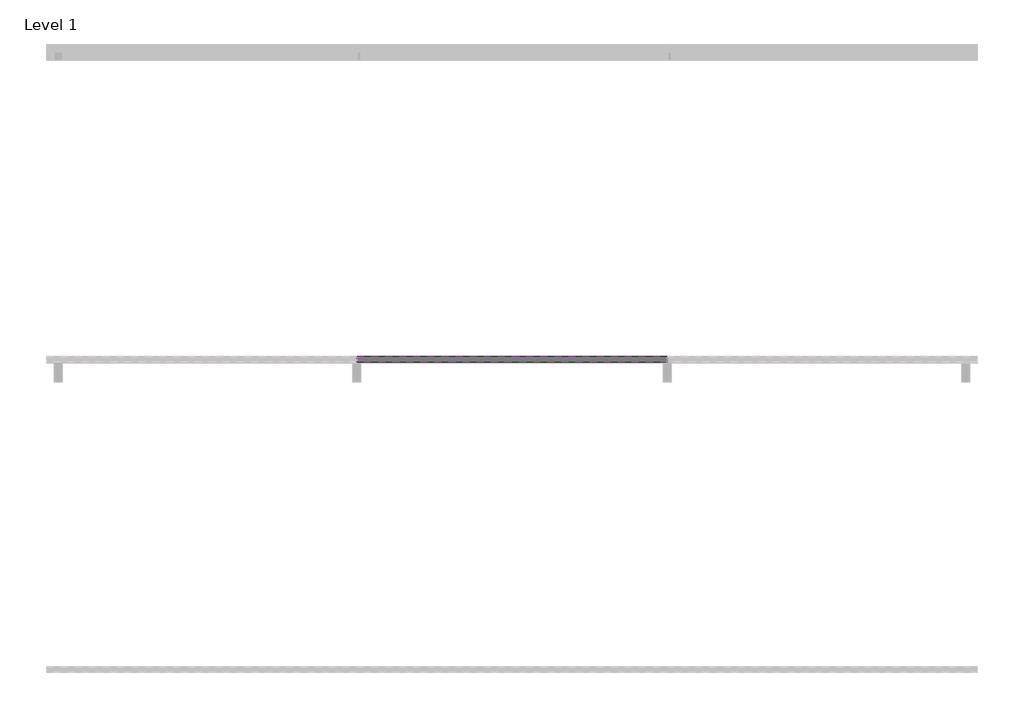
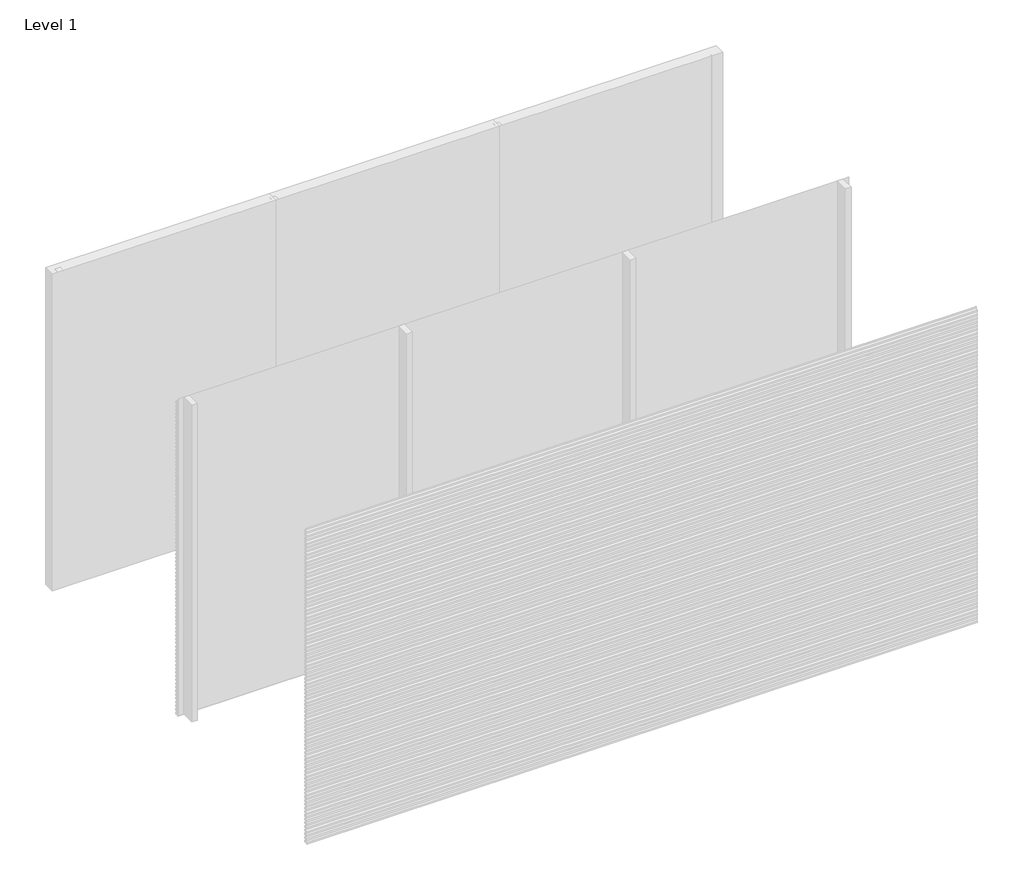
# One storey, part 4 of 17: 80 proxies.
"""IFC4 building model written with IfcOpenShell, lengths in millimetres."""

from ifc_helpers import new_model, si_unit, frame, origin, place, context, project, spatial, polyline, outline, extrude, element, save

model = new_model("IFC4")

# Units and contexts
model_context = context("Model", 3, world=origin())
ifc_project = project(units=[si_unit("LENGTHUNIT", "METRE", prefix="MILLI")], contexts=[model_context])

# Site, building, storey
site = spatial("IfcSite", under=ifc_project)
building = spatial("IfcBuilding", under=site)
storey = spatial("IfcBuildingStorey", under=building, Name="Level 1", Elevation=0.0)

# Proxies
placement = place(None, origin())
element("IfcBuildingElementProxy", 1, Name="Wall Sweeps", at=placement, inside=storey, context=model_context, shape_type="SweptSolid", body=[
    extrude(outline(polyline([(-17961.0, 2951.5), (-17961.0, 2936.5), (-17979.0, 2948.6411533), (-17997.0, 2936.5), (-17997.0, 2951.5), (-17980.0, 2962.9666448), (-17980.0, 2975.0), (-17978.0, 2975.0), (-17978.0, 2962.9666448), (-17961.0, 2951.5)])), frame((3999.9999999, 0.0, 0.0), z_axis=(1.0, 0.0, 0.0), x_axis=(0.0, 1.0, 0.0)), (0.0, 0.0, 1.0), 2000.0000001),
])
element("IfcBuildingElementProxy", 2, Name="Wall Sweeps", at=placement, inside=storey, context=model_context, shape_type="SweptSolid", body=[
    extrude(outline(polyline([(-17961.0, 2916.5), (-17961.0, 2901.5), (-17979.0, 2913.6411533), (-17997.0, 2901.5), (-17997.0, 2916.5), (-17980.0, 2927.9666448), (-17980.0, 2940.0), (-17978.0, 2940.0), (-17978.0, 2927.9666448), (-17961.0, 2916.5)])), frame((3999.9999999, 0.0, 0.0), z_axis=(1.0, 0.0, 0.0), x_axis=(0.0, 1.0, 0.0)), (0.0, 0.0, 1.0), 2000.0000001),
])
element("IfcBuildingElementProxy", 3, Name="Wall Sweeps", at=placement, inside=storey, context=model_context, shape_type="SweptSolid", body=[
    extrude(outline(polyline([(-17961.0, 2881.5), (-17961.0, 2866.5), (-17979.0, 2878.6411533), (-17997.0, 2866.5), (-17997.0, 2881.5), (-17980.0, 2892.9666448), (-17980.0, 2905.0), (-17978.0, 2905.0), (-17978.0, 2892.9666448), (-17961.0, 2881.5)])), frame((3999.9999999, 0.0, 0.0), z_axis=(1.0, 0.0, 0.0), x_axis=(0.0, 1.0, 0.0)), (0.0, 0.0, 1.0), 2000.0000001),
])
element("IfcBuildingElementProxy", 4, Name="Wall Sweeps", at=placement, inside=storey, context=model_context, shape_type="SweptSolid", body=[
    extrude(outline(polyline([(-17961.0, 2846.5), (-17961.0, 2831.5), (-17979.0, 2843.6411533), (-17997.0, 2831.5), (-17997.0, 2846.5), (-17980.0, 2857.9666448), (-17980.0, 2870.0), (-17978.0, 2870.0), (-17978.0, 2857.9666448), (-17961.0, 2846.5)])), frame((3999.9999999, 0.0, 0.0), z_axis=(1.0, 0.0, 0.0), x_axis=(0.0, 1.0, 0.0)), (0.0, 0.0, 1.0), 2000.0000001),
])
element("IfcBuildingElementProxy", 5, Name="Wall Sweeps", at=placement, inside=storey, context=model_context, shape_type="SweptSolid", body=[
    extrude(outline(polyline([(-17961.0, 2811.5), (-17961.0, 2796.5), (-17979.0, 2808.6411533), (-17997.0, 2796.5), (-17997.0, 2811.5), (-17980.0, 2822.9666448), (-17980.0, 2835.0), (-17978.0, 2835.0), (-17978.0, 2822.9666448), (-17961.0, 2811.5)])), frame((3999.9999999, 0.0, 0.0), z_axis=(1.0, 0.0, 0.0), x_axis=(0.0, 1.0, 0.0)), (0.0, 0.0, 1.0), 2000.0000001),
])
element("IfcBuildingElementProxy", 6, Name="Wall Sweeps", at=placement, inside=storey, context=model_context, shape_type="SweptSolid", body=[
    extrude(outline(polyline([(-17961.0, 2776.5), (-17961.0, 2761.5), (-17979.0, 2773.6411533), (-17997.0, 2761.5), (-17997.0, 2776.5), (-17980.0, 2787.9666448), (-17980.0, 2800.0), (-17978.0, 2800.0), (-17978.0, 2787.9666448), (-17961.0, 2776.5)])), frame((3999.9999999, 0.0, 0.0), z_axis=(1.0, 0.0, 0.0), x_axis=(0.0, 1.0, 0.0)), (0.0, 0.0, 1.0), 2000.0000001),
])
element("IfcBuildingElementProxy", 7, Name="Wall Sweeps", at=placement, inside=storey, context=model_context, shape_type="SweptSolid", body=[
    extrude(outline(polyline([(-17961.0, 2741.5), (-17961.0, 2726.5), (-17979.0, 2738.6411533), (-17997.0, 2726.5), (-17997.0, 2741.5), (-17980.0, 2752.9666448), (-17980.0, 2765.0), (-17978.0, 2765.0), (-17978.0, 2752.9666448), (-17961.0, 2741.5)])), frame((3999.9999999, 0.0, 0.0), z_axis=(1.0, 0.0, 0.0), x_axis=(0.0, 1.0, 0.0)), (0.0, 0.0, 1.0), 2000.0000001),
])
element("IfcBuildingElementProxy", 8, Name="Wall Sweeps", at=placement, inside=storey, context=model_context, shape_type="SweptSolid", body=[
    extrude(outline(polyline([(-17961.0, 2706.5), (-17961.0, 2691.5), (-17979.0, 2703.6411533), (-17997.0, 2691.5), (-17997.0, 2706.5), (-17980.0, 2717.9666448), (-17980.0, 2730.0), (-17978.0, 2730.0), (-17978.0, 2717.9666448), (-17961.0, 2706.5)])), frame((3999.9999999, 0.0, 0.0), z_axis=(1.0, 0.0, 0.0), x_axis=(0.0, 1.0, 0.0)), (0.0, 0.0, 1.0), 2000.0000001),
])
element("IfcBuildingElementProxy", 9, Name="Wall Sweeps", at=placement, inside=storey, context=model_context, shape_type="SweptSolid", body=[
    extrude(outline(polyline([(-17961.0, 2671.5), (-17961.0, 2656.5), (-17979.0, 2668.6411533), (-17997.0, 2656.5), (-17997.0, 2671.5), (-17980.0, 2682.9666448), (-17980.0, 2695.0), (-17978.0, 2695.0), (-17978.0, 2682.9666448), (-17961.0, 2671.5)])), frame((3999.9999999, 0.0, 0.0), z_axis=(1.0, 0.0, 0.0), x_axis=(0.0, 1.0, 0.0)), (0.0, 0.0, 1.0), 2000.0000001),
])
element("IfcBuildingElementProxy", 10, Name="Wall Sweeps", at=placement, inside=storey, context=model_context, shape_type="SweptSolid", body=[
    extrude(outline(polyline([(-17961.0, 2636.5), (-17961.0, 2621.5), (-17979.0, 2633.6411533), (-17997.0, 2621.5), (-17997.0, 2636.5), (-17980.0, 2647.9666448), (-17980.0, 2660.0), (-17978.0, 2660.0), (-17978.0, 2647.9666448), (-17961.0, 2636.5)])), frame((3999.9999999, 0.0, 0.0), z_axis=(1.0, 0.0, 0.0), x_axis=(0.0, 1.0, 0.0)), (0.0, 0.0, 1.0), 2000.0000001),
])
element("IfcBuildingElementProxy", 11, Name="Wall Sweeps", at=placement, inside=storey, context=model_context, shape_type="SweptSolid", body=[
    extrude(outline(polyline([(-17961.0, 2601.5), (-17961.0, 2586.5), (-17979.0, 2598.6411533), (-17997.0, 2586.5), (-17997.0, 2601.5), (-17980.0, 2612.9666448), (-17980.0, 2625.0), (-17978.0, 2625.0), (-17978.0, 2612.9666448), (-17961.0, 2601.5)])), frame((3999.9999999, 0.0, 0.0), z_axis=(1.0, 0.0, 0.0), x_axis=(0.0, 1.0, 0.0)), (0.0, 0.0, 1.0), 2000.0000001),
])
element("IfcBuildingElementProxy", 12, Name="Wall Sweeps", at=placement, inside=storey, context=model_context, shape_type="SweptSolid", body=[
    extrude(outline(polyline([(-17961.0, 2566.5), (-17961.0, 2551.5), (-17979.0, 2563.6411533), (-17997.0, 2551.5), (-17997.0, 2566.5), (-17980.0, 2577.9666448), (-17980.0, 2590.0), (-17978.0, 2590.0), (-17978.0, 2577.9666448), (-17961.0, 2566.5)])), frame((3999.9999999, 0.0, 0.0), z_axis=(1.0, 0.0, 0.0), x_axis=(0.0, 1.0, 0.0)), (0.0, 0.0, 1.0), 2000.0000001),
])
element("IfcBuildingElementProxy", 13, Name="Wall Sweeps", at=placement, inside=storey, context=model_context, shape_type="SweptSolid", body=[
    extrude(outline(polyline([(-17961.0, 2531.5), (-17961.0, 2516.5), (-17979.0, 2528.6411533), (-17997.0, 2516.5), (-17997.0, 2531.5), (-17980.0, 2542.9666448), (-17980.0, 2555.0), (-17978.0, 2555.0), (-17978.0, 2542.9666448), (-17961.0, 2531.5)])), frame((3999.9999999, 0.0, 0.0), z_axis=(1.0, 0.0, 0.0), x_axis=(0.0, 1.0, 0.0)), (0.0, 0.0, 1.0), 2000.0000001),
])
element("IfcBuildingElementProxy", 14, Name="Wall Sweeps", at=placement, inside=storey, context=model_context, shape_type="SweptSolid", body=[
    extrude(outline(polyline([(-17961.0, 2496.5), (-17961.0, 2481.5), (-17979.0, 2493.6411533), (-17997.0, 2481.5), (-17997.0, 2496.5), (-17980.0, 2507.9666448), (-17980.0, 2520.0), (-17978.0, 2520.0), (-17978.0, 2507.9666448), (-17961.0, 2496.5)])), frame((3999.9999999, 0.0, 0.0), z_axis=(1.0, 0.0, 0.0), x_axis=(0.0, 1.0, 0.0)), (0.0, 0.0, 1.0), 2000.0000001),
])
element("IfcBuildingElementProxy", 15, Name="Wall Sweeps", at=placement, inside=storey, context=model_context, shape_type="SweptSolid", body=[
    extrude(outline(polyline([(-17961.0, 2461.5), (-17961.0, 2446.5), (-17979.0, 2458.6411533), (-17997.0, 2446.5), (-17997.0, 2461.5), (-17980.0, 2472.9666448), (-17980.0, 2485.0), (-17978.0, 2485.0), (-17978.0, 2472.9666448), (-17961.0, 2461.5)])), frame((3999.9999999, 0.0, 0.0), z_axis=(1.0, 0.0, 0.0), x_axis=(0.0, 1.0, 0.0)), (0.0, 0.0, 1.0), 2000.0000001),
])
element("IfcBuildingElementProxy", 16, Name="Wall Sweeps", at=placement, inside=storey, context=model_context, shape_type="SweptSolid", body=[
    extrude(outline(polyline([(-17961.0, 2426.5), (-17961.0, 2411.5), (-17979.0, 2423.6411533), (-17997.0, 2411.5), (-17997.0, 2426.5), (-17980.0, 2437.9666448), (-17980.0, 2450.0), (-17978.0, 2450.0), (-17978.0, 2437.9666448), (-17961.0, 2426.5)])), frame((3999.9999999, 0.0, 0.0), z_axis=(1.0, 0.0, 0.0), x_axis=(0.0, 1.0, 0.0)), (0.0, 0.0, 1.0), 2000.0000001),
])
element("IfcBuildingElementProxy", 17, Name="Wall Sweeps", at=placement, inside=storey, context=model_context, shape_type="SweptSolid", body=[
    extrude(outline(polyline([(-17961.0, 2391.5), (-17961.0, 2376.5), (-17979.0, 2388.6411533), (-17997.0, 2376.5), (-17997.0, 2391.5), (-17980.0, 2402.9666448), (-17980.0, 2415.0), (-17978.0, 2415.0), (-17978.0, 2402.9666448), (-17961.0, 2391.5)])), frame((3999.9999999, 0.0, 0.0), z_axis=(1.0, 0.0, 0.0), x_axis=(0.0, 1.0, 0.0)), (0.0, 0.0, 1.0), 2000.0000001),
])
element("IfcBuildingElementProxy", 18, Name="Wall Sweeps", at=placement, inside=storey, context=model_context, shape_type="SweptSolid", body=[
    extrude(outline(polyline([(-17961.0, 2356.5), (-17961.0, 2341.5), (-17979.0, 2353.6411533), (-17997.0, 2341.5), (-17997.0, 2356.5), (-17980.0, 2367.9666448), (-17980.0, 2380.0), (-17978.0, 2380.0), (-17978.0, 2367.9666448), (-17961.0, 2356.5)])), frame((3999.9999999, 0.0, 0.0), z_axis=(1.0, 0.0, 0.0), x_axis=(0.0, 1.0, 0.0)), (0.0, 0.0, 1.0), 2000.0000001),
])
element("IfcBuildingElementProxy", 19, Name="Wall Sweeps", at=placement, inside=storey, context=model_context, shape_type="SweptSolid", body=[
    extrude(outline(polyline([(-17961.0, 2321.5), (-17961.0, 2306.5), (-17979.0, 2318.6411533), (-17997.0, 2306.5), (-17997.0, 2321.5), (-17980.0, 2332.9666448), (-17980.0, 2345.0), (-17978.0, 2345.0), (-17978.0, 2332.9666448), (-17961.0, 2321.5)])), frame((3999.9999999, 0.0, 0.0), z_axis=(1.0, 0.0, 0.0), x_axis=(0.0, 1.0, 0.0)), (0.0, 0.0, 1.0), 2000.0000001),
])
element("IfcBuildingElementProxy", 20, Name="Wall Sweeps", at=placement, inside=storey, context=model_context, shape_type="SweptSolid", body=[
    extrude(outline(polyline([(-17961.0, 2286.5), (-17961.0, 2271.5), (-17979.0, 2283.6411533), (-17997.0, 2271.5), (-17997.0, 2286.5), (-17980.0, 2297.9666448), (-17980.0, 2310.0), (-17978.0, 2310.0), (-17978.0, 2297.9666448), (-17961.0, 2286.5)])), frame((3999.9999999, 0.0, 0.0), z_axis=(1.0, 0.0, 0.0), x_axis=(0.0, 1.0, 0.0)), (0.0, 0.0, 1.0), 2000.0000001),
])
element("IfcBuildingElementProxy", 21, Name="Wall Sweeps", at=placement, inside=storey, context=model_context, shape_type="SweptSolid", body=[
    extrude(outline(polyline([(-17961.0, 2251.5), (-17961.0, 2236.5), (-17979.0, 2248.6411533), (-17997.0, 2236.5), (-17997.0, 2251.5), (-17980.0, 2262.9666448), (-17980.0, 2275.0), (-17978.0, 2275.0), (-17978.0, 2262.9666448), (-17961.0, 2251.5)])), frame((3999.9999999, 0.0, 0.0), z_axis=(1.0, 0.0, 0.0), x_axis=(0.0, 1.0, 0.0)), (0.0, 0.0, 1.0), 2000.0000001),
])
element("IfcBuildingElementProxy", 22, Name="Wall Sweeps", at=placement, inside=storey, context=model_context, shape_type="SweptSolid", body=[
    extrude(outline(polyline([(-17961.0, 2216.5), (-17961.0, 2201.5), (-17979.0, 2213.6411533), (-17997.0, 2201.5), (-17997.0, 2216.5), (-17980.0, 2227.9666448), (-17980.0, 2240.0), (-17978.0, 2240.0), (-17978.0, 2227.9666448), (-17961.0, 2216.5)])), frame((3999.9999999, 0.0, 0.0), z_axis=(1.0, 0.0, 0.0), x_axis=(0.0, 1.0, 0.0)), (0.0, 0.0, 1.0), 2000.0000001),
])
element("IfcBuildingElementProxy", 23, Name="Wall Sweeps", at=placement, inside=storey, context=model_context, shape_type="SweptSolid", body=[
    extrude(outline(polyline([(-17961.0, 2181.5), (-17961.0, 2166.5), (-17979.0, 2178.6411533), (-17997.0, 2166.5), (-17997.0, 2181.5), (-17980.0, 2192.9666448), (-17980.0, 2205.0), (-17978.0, 2205.0), (-17978.0, 2192.9666448), (-17961.0, 2181.5)])), frame((3999.9999999, 0.0, 0.0), z_axis=(1.0, 0.0, 0.0), x_axis=(0.0, 1.0, 0.0)), (0.0, 0.0, 1.0), 2000.0000001),
])
element("IfcBuildingElementProxy", 24, Name="Wall Sweeps", at=placement, inside=storey, context=model_context, shape_type="SweptSolid", body=[
    extrude(outline(polyline([(-17961.0, 2146.5), (-17961.0, 2131.5), (-17979.0, 2143.6411533), (-17997.0, 2131.5), (-17997.0, 2146.5), (-17980.0, 2157.9666448), (-17980.0, 2170.0), (-17978.0, 2170.0), (-17978.0, 2157.9666448), (-17961.0, 2146.5)])), frame((3999.9999999, 0.0, 0.0), z_axis=(1.0, 0.0, 0.0), x_axis=(0.0, 1.0, 0.0)), (0.0, 0.0, 1.0), 2000.0000001),
])
element("IfcBuildingElementProxy", 25, Name="Wall Sweeps", at=placement, inside=storey, context=model_context, shape_type="SweptSolid", body=[
    extrude(outline(polyline([(-17961.0, 2111.5), (-17961.0, 2096.5), (-17979.0, 2108.6411533), (-17997.0, 2096.5), (-17997.0, 2111.5), (-17980.0, 2122.9666448), (-17980.0, 2135.0), (-17978.0, 2135.0), (-17978.0, 2122.9666448), (-17961.0, 2111.5)])), frame((3999.9999999, 0.0, 0.0), z_axis=(1.0, 0.0, 0.0), x_axis=(0.0, 1.0, 0.0)), (0.0, 0.0, 1.0), 2000.0000001),
])
element("IfcBuildingElementProxy", 26, Name="Wall Sweeps", at=placement, inside=storey, context=model_context, shape_type="SweptSolid", body=[
    extrude(outline(polyline([(-17961.0, 2076.5), (-17961.0, 2061.5), (-17979.0, 2073.6411533), (-17997.0, 2061.5), (-17997.0, 2076.5), (-17980.0, 2087.9666448), (-17980.0, 2100.0), (-17978.0, 2100.0), (-17978.0, 2087.9666448), (-17961.0, 2076.5)])), frame((3999.9999999, 0.0, 0.0), z_axis=(1.0, 0.0, 0.0), x_axis=(0.0, 1.0, 0.0)), (0.0, 0.0, 1.0), 2000.0000001),
])
element("IfcBuildingElementProxy", 27, Name="Wall Sweeps", at=placement, inside=storey, context=model_context, shape_type="SweptSolid", body=[
    extrude(outline(polyline([(-17961.0, 2041.5), (-17961.0, 2026.5), (-17979.0, 2038.6411533), (-17997.0, 2026.5), (-17997.0, 2041.5), (-17980.0, 2052.9666448), (-17980.0, 2065.0), (-17978.0, 2065.0), (-17978.0, 2052.9666448), (-17961.0, 2041.5)])), frame((3999.9999999, 0.0, 0.0), z_axis=(1.0, 0.0, 0.0), x_axis=(0.0, 1.0, 0.0)), (0.0, 0.0, 1.0), 2000.0000001),
])
element("IfcBuildingElementProxy", 28, Name="Wall Sweeps", at=placement, inside=storey, context=model_context, shape_type="SweptSolid", body=[
    extrude(outline(polyline([(-17961.0, 2006.5), (-17961.0, 1991.5), (-17979.0, 2003.6411533), (-17997.0, 1991.5), (-17997.0, 2006.5), (-17980.0, 2017.9666448), (-17980.0, 2030.0), (-17978.0, 2030.0), (-17978.0, 2017.9666448), (-17961.0, 2006.5)])), frame((3999.9999999, 0.0, 0.0), z_axis=(1.0, 0.0, 0.0), x_axis=(0.0, 1.0, 0.0)), (0.0, 0.0, 1.0), 2000.0000001),
])
element("IfcBuildingElementProxy", 29, Name="Wall Sweeps", at=placement, inside=storey, context=model_context, shape_type="SweptSolid", body=[
    extrude(outline(polyline([(-17961.0, 1971.5), (-17961.0, 1956.5), (-17979.0, 1968.6411533), (-17997.0, 1956.5), (-17997.0, 1971.5), (-17980.0, 1982.9666448), (-17980.0, 1995.0), (-17978.0, 1995.0), (-17978.0, 1982.9666448), (-17961.0, 1971.5)])), frame((3999.9999999, 0.0, 0.0), z_axis=(1.0, 0.0, 0.0), x_axis=(0.0, 1.0, 0.0)), (0.0, 0.0, 1.0), 2000.0000001),
])
element("IfcBuildingElementProxy", 30, Name="Wall Sweeps", at=placement, inside=storey, context=model_context, shape_type="SweptSolid", body=[
    extrude(outline(polyline([(-17961.0, 1761.5), (-17961.0, 1746.5), (-17979.0, 1758.6411533), (-17997.0, 1746.5), (-17997.0, 1761.5), (-17980.0, 1772.9666448), (-17980.0, 1785.0), (-17978.0, 1785.0), (-17978.0, 1772.9666448), (-17961.0, 1761.5)])), frame((2000.0000001, 0.0, 0.0), z_axis=(1.0, 0.0, 0.0), x_axis=(0.0, 1.0, 0.0)), (0.0, 0.0, 1.0), 1999.9999998),
])
element("IfcBuildingElementProxy", 31, Name="Wall Sweeps", at=placement, inside=storey, context=model_context, shape_type="SweptSolid", body=[
    extrude(outline(polyline([(-17961.0, 1726.5), (-17961.0, 1711.5), (-17979.0, 1723.6411533), (-17997.0, 1711.5), (-17997.0, 1726.5), (-17980.0, 1737.9666448), (-17980.0, 1750.0), (-17978.0, 1750.0), (-17978.0, 1737.9666448), (-17961.0, 1726.5)])), frame((2000.0000001, 0.0, 0.0), z_axis=(1.0, 0.0, 0.0), x_axis=(0.0, 1.0, 0.0)), (0.0, 0.0, 1.0), 1999.9999998),
])
element("IfcBuildingElementProxy", 32, Name="Wall Sweeps", at=placement, inside=storey, context=model_context, shape_type="SweptSolid", body=[
    extrude(outline(polyline([(-17961.0, 1691.5), (-17961.0, 1676.5), (-17979.0, 1688.6411533), (-17997.0, 1676.5), (-17997.0, 1691.5), (-17980.0, 1702.9666448), (-17980.0, 1715.0), (-17978.0, 1715.0), (-17978.0, 1702.9666448), (-17961.0, 1691.5)])), frame((2000.0000001, 0.0, 0.0), z_axis=(1.0, 0.0, 0.0), x_axis=(0.0, 1.0, 0.0)), (0.0, 0.0, 1.0), 1999.9999998),
])
element("IfcBuildingElementProxy", 33, Name="Wall Sweeps", at=placement, inside=storey, context=model_context, shape_type="SweptSolid", body=[
    extrude(outline(polyline([(-17961.0, 1656.5), (-17961.0, 1641.5), (-17979.0, 1653.6411533), (-17997.0, 1641.5), (-17997.0, 1656.5), (-17980.0, 1667.9666448), (-17980.0, 1680.0), (-17978.0, 1680.0), (-17978.0, 1667.9666448), (-17961.0, 1656.5)])), frame((2000.0000001, 0.0, 0.0), z_axis=(1.0, 0.0, 0.0), x_axis=(0.0, 1.0, 0.0)), (0.0, 0.0, 1.0), 1999.9999998),
])
element("IfcBuildingElementProxy", 34, Name="Wall Sweeps", at=placement, inside=storey, context=model_context, shape_type="SweptSolid", body=[
    extrude(outline(polyline([(-17961.0, 1621.5), (-17961.0, 1606.5), (-17979.0, 1618.6411533), (-17997.0, 1606.5), (-17997.0, 1621.5), (-17980.0, 1632.9666448), (-17980.0, 1645.0), (-17978.0, 1645.0), (-17978.0, 1632.9666448), (-17961.0, 1621.5)])), frame((2000.0000001, 0.0, 0.0), z_axis=(1.0, 0.0, 0.0), x_axis=(0.0, 1.0, 0.0)), (0.0, 0.0, 1.0), 1999.9999998),
])
element("IfcBuildingElementProxy", 35, Name="Wall Sweeps", at=placement, inside=storey, context=model_context, shape_type="SweptSolid", body=[
    extrude(outline(polyline([(-17961.0, 1586.5), (-17961.0, 1571.5), (-17979.0, 1583.6411533), (-17997.0, 1571.5), (-17997.0, 1586.5), (-17980.0, 1597.9666448), (-17980.0, 1610.0), (-17978.0, 1610.0), (-17978.0, 1597.9666448), (-17961.0, 1586.5)])), frame((2000.0000001, 0.0, 0.0), z_axis=(1.0, 0.0, 0.0), x_axis=(0.0, 1.0, 0.0)), (0.0, 0.0, 1.0), 1999.9999998),
])
element("IfcBuildingElementProxy", 36, Name="Wall Sweeps", at=placement, inside=storey, context=model_context, shape_type="SweptSolid", body=[
    extrude(outline(polyline([(-17961.0, 1551.5), (-17961.0, 1536.5), (-17979.0, 1548.6411533), (-17997.0, 1536.5), (-17997.0, 1551.5), (-17980.0, 1562.9666448), (-17980.0, 1575.0), (-17978.0, 1575.0), (-17978.0, 1562.9666448), (-17961.0, 1551.5)])), frame((2000.0000001, 0.0, 0.0), z_axis=(1.0, 0.0, 0.0), x_axis=(0.0, 1.0, 0.0)), (0.0, 0.0, 1.0), 1999.9999998),
])
element("IfcBuildingElementProxy", 37, Name="Wall Sweeps", at=placement, inside=storey, context=model_context, shape_type="SweptSolid", body=[
    extrude(outline(polyline([(-17961.0, 1516.5), (-17961.0, 1501.5), (-17979.0, 1513.6411533), (-17997.0, 1501.5), (-17997.0, 1516.5), (-17980.0, 1527.9666448), (-17980.0, 1540.0), (-17978.0, 1540.0), (-17978.0, 1527.9666448), (-17961.0, 1516.5)])), frame((2000.0000001, 0.0, 0.0), z_axis=(1.0, 0.0, 0.0), x_axis=(0.0, 1.0, 0.0)), (0.0, 0.0, 1.0), 1999.9999998),
])
element("IfcBuildingElementProxy", 38, Name="Wall Sweeps", at=placement, inside=storey, context=model_context, shape_type="SweptSolid", body=[
    extrude(outline(polyline([(-17961.0, 1481.5), (-17961.0, 1466.5), (-17979.0, 1478.6411533), (-17997.0, 1466.5), (-17997.0, 1481.5), (-17980.0, 1492.9666448), (-17980.0, 1505.0), (-17978.0, 1505.0), (-17978.0, 1492.9666448), (-17961.0, 1481.5)])), frame((2000.0000001, 0.0, 0.0), z_axis=(1.0, 0.0, 0.0), x_axis=(0.0, 1.0, 0.0)), (0.0, 0.0, 1.0), 1999.9999998),
])
element("IfcBuildingElementProxy", 39, Name="Wall Sweeps", at=placement, inside=storey, context=model_context, shape_type="SweptSolid", body=[
    extrude(outline(polyline([(-17961.0, 1446.5), (-17961.0, 1431.5), (-17979.0, 1443.6411533), (-17997.0, 1431.5), (-17997.0, 1446.5), (-17980.0, 1457.9666448), (-17980.0, 1470.0), (-17978.0, 1470.0), (-17978.0, 1457.9666448), (-17961.0, 1446.5)])), frame((2000.0000001, 0.0, 0.0), z_axis=(1.0, 0.0, 0.0), x_axis=(0.0, 1.0, 0.0)), (0.0, 0.0, 1.0), 1999.9999998),
])
element("IfcBuildingElementProxy", 40, Name="Wall Sweeps", at=placement, inside=storey, context=model_context, shape_type="SweptSolid", body=[
    extrude(outline(polyline([(-17961.0, 1411.5), (-17961.0, 1396.5), (-17979.0, 1408.6411533), (-17997.0, 1396.5), (-17997.0, 1411.5), (-17980.0, 1422.9666448), (-17980.0, 1435.0), (-17978.0, 1435.0), (-17978.0, 1422.9666448), (-17961.0, 1411.5)])), frame((2000.0000001, 0.0, 0.0), z_axis=(1.0, 0.0, 0.0), x_axis=(0.0, 1.0, 0.0)), (0.0, 0.0, 1.0), 1999.9999998),
])
element("IfcBuildingElementProxy", 41, Name="Wall Sweeps", at=placement, inside=storey, context=model_context, shape_type="SweptSolid", body=[
    extrude(outline(polyline([(-17961.0, 1376.5), (-17961.0, 1361.5), (-17979.0, 1373.6411533), (-17997.0, 1361.5), (-17997.0, 1376.5), (-17980.0, 1387.9666448), (-17980.0, 1400.0), (-17978.0, 1400.0), (-17978.0, 1387.9666448), (-17961.0, 1376.5)])), frame((2000.0000001, 0.0, 0.0), z_axis=(1.0, 0.0, 0.0), x_axis=(0.0, 1.0, 0.0)), (0.0, 0.0, 1.0), 1999.9999998),
])
element("IfcBuildingElementProxy", 42, Name="Wall Sweeps", at=placement, inside=storey, context=model_context, shape_type="SweptSolid", body=[
    extrude(outline(polyline([(-17961.0, 1341.5), (-17961.0, 1326.5), (-17979.0, 1338.6411533), (-17997.0, 1326.5), (-17997.0, 1341.5), (-17980.0, 1352.9666448), (-17980.0, 1365.0), (-17978.0, 1365.0), (-17978.0, 1352.9666448), (-17961.0, 1341.5)])), frame((2000.0000001, 0.0, 0.0), z_axis=(1.0, 0.0, 0.0), x_axis=(0.0, 1.0, 0.0)), (0.0, 0.0, 1.0), 1999.9999998),
])
element("IfcBuildingElementProxy", 43, Name="Wall Sweeps", at=placement, inside=storey, context=model_context, shape_type="SweptSolid", body=[
    extrude(outline(polyline([(-17961.0, 1306.5), (-17961.0, 1291.5), (-17979.0, 1303.6411533), (-17997.0, 1291.5), (-17997.0, 1306.5), (-17980.0, 1317.9666448), (-17980.0, 1330.0), (-17978.0, 1330.0), (-17978.0, 1317.9666448), (-17961.0, 1306.5)])), frame((2000.0000001, 0.0, 0.0), z_axis=(1.0, 0.0, 0.0), x_axis=(0.0, 1.0, 0.0)), (0.0, 0.0, 1.0), 1999.9999998),
])
element("IfcBuildingElementProxy", 44, Name="Wall Sweeps", at=placement, inside=storey, context=model_context, shape_type="SweptSolid", body=[
    extrude(outline(polyline([(-17961.0, 1271.5), (-17961.0, 1256.5), (-17979.0, 1268.6411533), (-17997.0, 1256.5), (-17997.0, 1271.5), (-17980.0, 1282.9666448), (-17980.0, 1295.0), (-17978.0, 1295.0), (-17978.0, 1282.9666448), (-17961.0, 1271.5)])), frame((2000.0000001, 0.0, 0.0), z_axis=(1.0, 0.0, 0.0), x_axis=(0.0, 1.0, 0.0)), (0.0, 0.0, 1.0), 1999.9999998),
])
element("IfcBuildingElementProxy", 45, Name="Wall Sweeps", at=placement, inside=storey, context=model_context, shape_type="SweptSolid", body=[
    extrude(outline(polyline([(-17961.0, 1236.5), (-17961.0, 1221.5), (-17979.0, 1233.6411533), (-17997.0, 1221.5), (-17997.0, 1236.5), (-17980.0, 1247.9666448), (-17980.0, 1260.0), (-17978.0, 1260.0), (-17978.0, 1247.9666448), (-17961.0, 1236.5)])), frame((2000.0000001, 0.0, 0.0), z_axis=(1.0, 0.0, 0.0), x_axis=(0.0, 1.0, 0.0)), (0.0, 0.0, 1.0), 1999.9999998),
])
element("IfcBuildingElementProxy", 46, Name="Wall Sweeps", at=placement, inside=storey, context=model_context, shape_type="SweptSolid", body=[
    extrude(outline(polyline([(-17961.0, 1201.5), (-17961.0, 1186.5), (-17979.0, 1198.6411533), (-17997.0, 1186.5), (-17997.0, 1201.5), (-17980.0, 1212.9666448), (-17980.0, 1225.0), (-17978.0, 1225.0), (-17978.0, 1212.9666448), (-17961.0, 1201.5)])), frame((2000.0000001, 0.0, 0.0), z_axis=(1.0, 0.0, 0.0), x_axis=(0.0, 1.0, 0.0)), (0.0, 0.0, 1.0), 1999.9999998),
])
element("IfcBuildingElementProxy", 47, Name="Wall Sweeps", at=placement, inside=storey, context=model_context, shape_type="SweptSolid", body=[
    extrude(outline(polyline([(-17961.0, 1166.5), (-17961.0, 1151.5), (-17979.0, 1163.6411533), (-17997.0, 1151.5), (-17997.0, 1166.5), (-17980.0, 1177.9666448), (-17980.0, 1190.0), (-17978.0, 1190.0), (-17978.0, 1177.9666448), (-17961.0, 1166.5)])), frame((2000.0000001, 0.0, 0.0), z_axis=(1.0, 0.0, 0.0), x_axis=(0.0, 1.0, 0.0)), (0.0, 0.0, 1.0), 1999.9999998),
])
element("IfcBuildingElementProxy", 48, Name="Wall Sweeps", at=placement, inside=storey, context=model_context, shape_type="SweptSolid", body=[
    extrude(outline(polyline([(-17961.0, 1131.5), (-17961.0, 1116.5), (-17979.0, 1128.6411533), (-17997.0, 1116.5), (-17997.0, 1131.5), (-17980.0, 1142.9666448), (-17980.0, 1155.0), (-17978.0, 1155.0), (-17978.0, 1142.9666448), (-17961.0, 1131.5)])), frame((2000.0000001, 0.0, 0.0), z_axis=(1.0, 0.0, 0.0), x_axis=(0.0, 1.0, 0.0)), (0.0, 0.0, 1.0), 1999.9999998),
])
element("IfcBuildingElementProxy", 49, Name="Wall Sweeps", at=placement, inside=storey, context=model_context, shape_type="SweptSolid", body=[
    extrude(outline(polyline([(-17961.0, 1096.5), (-17961.0, 1081.5), (-17979.0, 1093.6411533), (-17997.0, 1081.5), (-17997.0, 1096.5), (-17980.0, 1107.9666448), (-17980.0, 1120.0), (-17978.0, 1120.0), (-17978.0, 1107.9666448), (-17961.0, 1096.5)])), frame((2000.0000001, 0.0, 0.0), z_axis=(1.0, 0.0, 0.0), x_axis=(0.0, 1.0, 0.0)), (0.0, 0.0, 1.0), 1999.9999998),
])
element("IfcBuildingElementProxy", 50, Name="Wall Sweeps", at=placement, inside=storey, context=model_context, shape_type="SweptSolid", body=[
    extrude(outline(polyline([(-17961.0, 1061.5), (-17961.0, 1046.5), (-17979.0, 1058.6411533), (-17997.0, 1046.5), (-17997.0, 1061.5), (-17980.0, 1072.9666448), (-17980.0, 1085.0), (-17978.0, 1085.0), (-17978.0, 1072.9666448), (-17961.0, 1061.5)])), frame((2000.0000001, 0.0, 0.0), z_axis=(1.0, 0.0, 0.0), x_axis=(0.0, 1.0, 0.0)), (0.0, 0.0, 1.0), 1999.9999998),
])
element("IfcBuildingElementProxy", 51, Name="Wall Sweeps", at=placement, inside=storey, context=model_context, shape_type="SweptSolid", body=[
    extrude(outline(polyline([(-17961.0, 1026.5), (-17961.0, 1011.5), (-17979.0, 1023.6411533), (-17997.0, 1011.5), (-17997.0, 1026.5), (-17980.0, 1037.9666448), (-17980.0, 1050.0), (-17978.0, 1050.0), (-17978.0, 1037.9666448), (-17961.0, 1026.5)])), frame((2000.0000001, 0.0, 0.0), z_axis=(1.0, 0.0, 0.0), x_axis=(0.0, 1.0, 0.0)), (0.0, 0.0, 1.0), 1999.9999998),
])
element("IfcBuildingElementProxy", 52, Name="Wall Sweeps", at=placement, inside=storey, context=model_context, shape_type="SweptSolid", body=[
    extrude(outline(polyline([(-17961.0, 991.5), (-17961.0, 976.5), (-17979.0, 988.6411533), (-17997.0, 976.5), (-17997.0, 991.5), (-17980.0, 1002.9666448), (-17980.0, 1015.0), (-17978.0, 1015.0), (-17978.0, 1002.9666448), (-17961.0, 991.5)])), frame((2000.0000001, 0.0, 0.0), z_axis=(1.0, 0.0, 0.0), x_axis=(0.0, 1.0, 0.0)), (0.0, 0.0, 1.0), 1999.9999998),
])
element("IfcBuildingElementProxy", 53, Name="Wall Sweeps", at=placement, inside=storey, context=model_context, shape_type="SweptSolid", body=[
    extrude(outline(polyline([(-17961.0, 956.5), (-17961.0, 941.5), (-17979.0, 953.6411533), (-17997.0, 941.5), (-17997.0, 956.5), (-17980.0, 967.9666448), (-17980.0, 980.0), (-17978.0, 980.0), (-17978.0, 967.9666448), (-17961.0, 956.5)])), frame((2000.0000001, 0.0, 0.0), z_axis=(1.0, 0.0, 0.0), x_axis=(0.0, 1.0, 0.0)), (0.0, 0.0, 1.0), 1999.9999998),
])
element("IfcBuildingElementProxy", 54, Name="Wall Sweeps", at=placement, inside=storey, context=model_context, shape_type="SweptSolid", body=[
    extrude(outline(polyline([(-17961.0, 921.5), (-17961.0, 906.5), (-17979.0, 918.6411533), (-17997.0, 906.5), (-17997.0, 921.5), (-17980.0, 932.9666448), (-17980.0, 945.0), (-17978.0, 945.0), (-17978.0, 932.9666448), (-17961.0, 921.5)])), frame((2000.0000001, 0.0, 0.0), z_axis=(1.0, 0.0, 0.0), x_axis=(0.0, 1.0, 0.0)), (0.0, 0.0, 1.0), 1999.9999998),
])
element("IfcBuildingElementProxy", 55, Name="Wall Sweeps", at=placement, inside=storey, context=model_context, shape_type="SweptSolid", body=[
    extrude(outline(polyline([(-17961.0, 886.5), (-17961.0, 871.5), (-17979.0, 883.6411533), (-17997.0, 871.5), (-17997.0, 886.5), (-17980.0, 897.9666448), (-17980.0, 910.0), (-17978.0, 910.0), (-17978.0, 897.9666448), (-17961.0, 886.5)])), frame((2000.0000001, 0.0, 0.0), z_axis=(1.0, 0.0, 0.0), x_axis=(0.0, 1.0, 0.0)), (0.0, 0.0, 1.0), 1999.9999998),
])
element("IfcBuildingElementProxy", 56, Name="Wall Sweeps", at=placement, inside=storey, context=model_context, shape_type="SweptSolid", body=[
    extrude(outline(polyline([(-17961.0, 851.5), (-17961.0, 836.5), (-17979.0, 848.6411533), (-17997.0, 836.5), (-17997.0, 851.5), (-17980.0, 862.9666448), (-17980.0, 875.0), (-17978.0, 875.0), (-17978.0, 862.9666448), (-17961.0, 851.5)])), frame((2000.0000001, 0.0, 0.0), z_axis=(1.0, 0.0, 0.0), x_axis=(0.0, 1.0, 0.0)), (0.0, 0.0, 1.0), 1999.9999998),
])
element("IfcBuildingElementProxy", 57, Name="Wall Sweeps", at=placement, inside=storey, context=model_context, shape_type="SweptSolid", body=[
    extrude(outline(polyline([(-17961.0, 816.5), (-17961.0, 801.5), (-17979.0, 813.6411533), (-17997.0, 801.5), (-17997.0, 816.5), (-17980.0, 827.9666448), (-17980.0, 840.0), (-17978.0, 840.0), (-17978.0, 827.9666448), (-17961.0, 816.5)])), frame((2000.0000001, 0.0, 0.0), z_axis=(1.0, 0.0, 0.0), x_axis=(0.0, 1.0, 0.0)), (0.0, 0.0, 1.0), 1999.9999998),
])
element("IfcBuildingElementProxy", 58, Name="Wall Sweeps", at=placement, inside=storey, context=model_context, shape_type="SweptSolid", body=[
    extrude(outline(polyline([(-17961.0, 781.5), (-17961.0, 766.5), (-17979.0, 778.6411533), (-17997.0, 766.5), (-17997.0, 781.5), (-17980.0, 792.9666448), (-17980.0, 805.0), (-17978.0, 805.0), (-17978.0, 792.9666448), (-17961.0, 781.5)])), frame((2000.0000001, 0.0, 0.0), z_axis=(1.0, 0.0, 0.0), x_axis=(0.0, 1.0, 0.0)), (0.0, 0.0, 1.0), 1999.9999998),
])
element("IfcBuildingElementProxy", 59, Name="Wall Sweeps", at=placement, inside=storey, context=model_context, shape_type="SweptSolid", body=[
    extrude(outline(polyline([(-17961.0, 746.5), (-17961.0, 731.5), (-17979.0, 743.6411533), (-17997.0, 731.5), (-17997.0, 746.5), (-17980.0, 757.9666448), (-17980.0, 770.0), (-17978.0, 770.0), (-17978.0, 757.9666448), (-17961.0, 746.5)])), frame((2000.0000001, 0.0, 0.0), z_axis=(1.0, 0.0, 0.0), x_axis=(0.0, 1.0, 0.0)), (0.0, 0.0, 1.0), 1999.9999998),
])
element("IfcBuildingElementProxy", 60, Name="Wall Sweeps", at=placement, inside=storey, context=model_context, shape_type="SweptSolid", body=[
    extrude(outline(polyline([(-17961.0, 711.5), (-17961.0, 696.5), (-17979.0, 708.6411533), (-17997.0, 696.5), (-17997.0, 711.5), (-17980.0, 722.9666448), (-17980.0, 735.0), (-17978.0, 735.0), (-17978.0, 722.9666448), (-17961.0, 711.5)])), frame((2000.0000001, 0.0, 0.0), z_axis=(1.0, 0.0, 0.0), x_axis=(0.0, 1.0, 0.0)), (0.0, 0.0, 1.0), 1999.9999998),
])
element("IfcBuildingElementProxy", 61, Name="Wall Sweeps", at=placement, inside=storey, context=model_context, shape_type="SweptSolid", body=[
    extrude(outline(polyline([(-17961.0, 676.5), (-17961.0, 661.5), (-17979.0, 673.6411533), (-17997.0, 661.5), (-17997.0, 676.5), (-17980.0, 687.9666448), (-17980.0, 700.0), (-17978.0, 700.0), (-17978.0, 687.9666448), (-17961.0, 676.5)])), frame((2000.0000001, 0.0, 0.0), z_axis=(1.0, 0.0, 0.0), x_axis=(0.0, 1.0, 0.0)), (0.0, 0.0, 1.0), 1999.9999998),
])
element("IfcBuildingElementProxy", 62, Name="Wall Sweeps", at=placement, inside=storey, context=model_context, shape_type="SweptSolid", body=[
    extrude(outline(polyline([(-17961.0, 641.5), (-17961.0, 626.5), (-17979.0, 638.6411533), (-17997.0, 626.5), (-17997.0, 641.5), (-17980.0, 652.9666448), (-17980.0, 665.0), (-17978.0, 665.0), (-17978.0, 652.9666448), (-17961.0, 641.5)])), frame((2000.0000001, 0.0, 0.0), z_axis=(1.0, 0.0, 0.0), x_axis=(0.0, 1.0, 0.0)), (0.0, 0.0, 1.0), 1999.9999998),
])
element("IfcBuildingElementProxy", 63, Name="Wall Sweeps", at=placement, inside=storey, context=model_context, shape_type="SweptSolid", body=[
    extrude(outline(polyline([(-17961.0, 606.5), (-17961.0, 591.5), (-17979.0, 603.6411533), (-17997.0, 591.5), (-17997.0, 606.5), (-17980.0, 617.9666448), (-17980.0, 630.0), (-17978.0, 630.0), (-17978.0, 617.9666448), (-17961.0, 606.5)])), frame((2000.0000001, 0.0, 0.0), z_axis=(1.0, 0.0, 0.0), x_axis=(0.0, 1.0, 0.0)), (0.0, 0.0, 1.0), 1999.9999998),
])
element("IfcBuildingElementProxy", 64, Name="Wall Sweeps", at=placement, inside=storey, context=model_context, shape_type="SweptSolid", body=[
    extrude(outline(polyline([(-17961.0, 571.5), (-17961.0, 556.5), (-17979.0, 568.6411533), (-17997.0, 556.5), (-17997.0, 571.5), (-17980.0, 582.9666448), (-17980.0, 595.0), (-17978.0, 595.0), (-17978.0, 582.9666448), (-17961.0, 571.5)])), frame((2000.0000001, 0.0, 0.0), z_axis=(1.0, 0.0, 0.0), x_axis=(0.0, 1.0, 0.0)), (0.0, 0.0, 1.0), 1999.9999998),
])
element("IfcBuildingElementProxy", 65, Name="Wall Sweeps", at=placement, inside=storey, context=model_context, shape_type="SweptSolid", body=[
    extrude(outline(polyline([(-17961.0, 536.5), (-17961.0, 521.5), (-17979.0, 533.6411533), (-17997.0, 521.5), (-17997.0, 536.5), (-17980.0, 547.9666448), (-17980.0, 560.0), (-17978.0, 560.0), (-17978.0, 547.9666448), (-17961.0, 536.5)])), frame((2000.0000001, 0.0, 0.0), z_axis=(1.0, 0.0, 0.0), x_axis=(0.0, 1.0, 0.0)), (0.0, 0.0, 1.0), 1999.9999998),
])
element("IfcBuildingElementProxy", 66, Name="Wall Sweeps", at=placement, inside=storey, context=model_context, shape_type="SweptSolid", body=[
    extrude(outline(polyline([(-17961.0, 501.5), (-17961.0, 486.5), (-17979.0, 498.6411533), (-17997.0, 486.5), (-17997.0, 501.5), (-17980.0, 512.9666448), (-17980.0, 525.0), (-17978.0, 525.0), (-17978.0, 512.9666448), (-17961.0, 501.5)])), frame((2000.0000001, 0.0, 0.0), z_axis=(1.0, 0.0, 0.0), x_axis=(0.0, 1.0, 0.0)), (0.0, 0.0, 1.0), 1999.9999998),
])
element("IfcBuildingElementProxy", 67, Name="Wall Sweeps", at=placement, inside=storey, context=model_context, shape_type="SweptSolid", body=[
    extrude(outline(polyline([(-17961.0, 466.5), (-17961.0, 451.5), (-17979.0, 463.6411533), (-17997.0, 451.5), (-17997.0, 466.5), (-17980.0, 477.9666448), (-17980.0, 490.0), (-17978.0, 490.0), (-17978.0, 477.9666448), (-17961.0, 466.5)])), frame((2000.0000001, 0.0, 0.0), z_axis=(1.0, 0.0, 0.0), x_axis=(0.0, 1.0, 0.0)), (0.0, 0.0, 1.0), 1999.9999998),
])
element("IfcBuildingElementProxy", 68, Name="Wall Sweeps", at=placement, inside=storey, context=model_context, shape_type="SweptSolid", body=[
    extrude(outline(polyline([(-17961.0, 431.5), (-17961.0, 416.5), (-17979.0, 428.6411533), (-17997.0, 416.5), (-17997.0, 431.5), (-17980.0, 442.9666448), (-17980.0, 455.0), (-17978.0, 455.0), (-17978.0, 442.9666448), (-17961.0, 431.5)])), frame((2000.0000001, 0.0, 0.0), z_axis=(1.0, 0.0, 0.0), x_axis=(0.0, 1.0, 0.0)), (0.0, 0.0, 1.0), 1999.9999998),
])
element("IfcBuildingElementProxy", 69, Name="Wall Sweeps", at=placement, inside=storey, context=model_context, shape_type="SweptSolid", body=[
    extrude(outline(polyline([(-17961.0, 396.5), (-17961.0, 381.5), (-17979.0, 393.6411533), (-17997.0, 381.5), (-17997.0, 396.5), (-17980.0, 407.9666448), (-17980.0, 420.0), (-17978.0, 420.0), (-17978.0, 407.9666448), (-17961.0, 396.5)])), frame((2000.0000001, 0.0, 0.0), z_axis=(1.0, 0.0, 0.0), x_axis=(0.0, 1.0, 0.0)), (0.0, 0.0, 1.0), 1999.9999998),
])
element("IfcBuildingElementProxy", 70, Name="Wall Sweeps", at=placement, inside=storey, context=model_context, shape_type="SweptSolid", body=[
    extrude(outline(polyline([(-17961.0, 361.5), (-17961.0, 346.5), (-17979.0, 358.6411533), (-17997.0, 346.5), (-17997.0, 361.5), (-17980.0, 372.9666448), (-17980.0, 385.0), (-17978.0, 385.0), (-17978.0, 372.9666448), (-17961.0, 361.5)])), frame((2000.0000001, 0.0, 0.0), z_axis=(1.0, 0.0, 0.0), x_axis=(0.0, 1.0, 0.0)), (0.0, 0.0, 1.0), 1999.9999998),
])
element("IfcBuildingElementProxy", 71, Name="Wall Sweeps", at=placement, inside=storey, context=model_context, shape_type="SweptSolid", body=[
    extrude(outline(polyline([(-17961.0, 326.5), (-17961.0, 311.5), (-17979.0, 323.6411533), (-17997.0, 311.5), (-17997.0, 326.5), (-17980.0, 337.9666448), (-17980.0, 350.0), (-17978.0, 350.0), (-17978.0, 337.9666448), (-17961.0, 326.5)])), frame((2000.0000001, 0.0, 0.0), z_axis=(1.0, 0.0, 0.0), x_axis=(0.0, 1.0, 0.0)), (0.0, 0.0, 1.0), 1999.9999998),
])
element("IfcBuildingElementProxy", 72, Name="Wall Sweeps", at=placement, inside=storey, context=model_context, shape_type="SweptSolid", body=[
    extrude(outline(polyline([(-17961.0, 291.5), (-17961.0, 276.5), (-17979.0, 288.6411533), (-17997.0, 276.5), (-17997.0, 291.5), (-17980.0, 302.9666448), (-17980.0, 315.0), (-17978.0, 315.0), (-17978.0, 302.9666448), (-17961.0, 291.5)])), frame((2000.0000001, 0.0, 0.0), z_axis=(1.0, 0.0, 0.0), x_axis=(0.0, 1.0, 0.0)), (0.0, 0.0, 1.0), 1999.9999998),
])
element("IfcBuildingElementProxy", 73, Name="Wall Sweeps", at=placement, inside=storey, context=model_context, shape_type="SweptSolid", body=[
    extrude(outline(polyline([(-17961.0, 256.5), (-17961.0, 241.5), (-17979.0, 253.6411533), (-17997.0, 241.5), (-17997.0, 256.5), (-17980.0, 267.9666448), (-17980.0, 280.0), (-17978.0, 280.0), (-17978.0, 267.9666448), (-17961.0, 256.5)])), frame((2000.0000001, 0.0, 0.0), z_axis=(1.0, 0.0, 0.0), x_axis=(0.0, 1.0, 0.0)), (0.0, 0.0, 1.0), 1999.9999998),
])
element("IfcBuildingElementProxy", 74, Name="Wall Sweeps", at=placement, inside=storey, context=model_context, shape_type="SweptSolid", body=[
    extrude(outline(polyline([(-17961.0, 221.5), (-17961.0, 206.5), (-17979.0, 218.6411533), (-17997.0, 206.5), (-17997.0, 221.5), (-17980.0, 232.9666448), (-17980.0, 245.0), (-17978.0, 245.0), (-17978.0, 232.9666448), (-17961.0, 221.5)])), frame((2000.0000001, 0.0, 0.0), z_axis=(1.0, 0.0, 0.0), x_axis=(0.0, 1.0, 0.0)), (0.0, 0.0, 1.0), 1999.9999998),
])
element("IfcBuildingElementProxy", 75, Name="Wall Sweeps", at=placement, inside=storey, context=model_context, shape_type="SweptSolid", body=[
    extrude(outline(polyline([(-17961.0, 186.5), (-17961.0, 171.5), (-17979.0, 183.6411533), (-17997.0, 171.5), (-17997.0, 186.5), (-17980.0, 197.9666448), (-17980.0, 210.0), (-17978.0, 210.0), (-17978.0, 197.9666448), (-17961.0, 186.5)])), frame((2000.0000001, 0.0, 0.0), z_axis=(1.0, 0.0, 0.0), x_axis=(0.0, 1.0, 0.0)), (0.0, 0.0, 1.0), 1999.9999998),
])
element("IfcBuildingElementProxy", 76, Name="Wall Sweeps", at=placement, inside=storey, context=model_context, shape_type="SweptSolid", body=[
    extrude(outline(polyline([(-17961.0, 151.5), (-17961.0, 136.5), (-17979.0, 148.6411533), (-17997.0, 136.5), (-17997.0, 151.5), (-17980.0, 162.9666448), (-17980.0, 175.0), (-17978.0, 175.0), (-17978.0, 162.9666448), (-17961.0, 151.5)])), frame((2000.0000001, 0.0, 0.0), z_axis=(1.0, 0.0, 0.0), x_axis=(0.0, 1.0, 0.0)), (0.0, 0.0, 1.0), 1999.9999998),
])
element("IfcBuildingElementProxy", 77, Name="Wall Sweeps", at=placement, inside=storey, context=model_context, shape_type="SweptSolid", body=[
    extrude(outline(polyline([(-17961.0, 116.5), (-17961.0, 101.5), (-17979.0, 113.6411533), (-17997.0, 101.5), (-17997.0, 116.5), (-17980.0, 127.9666448), (-17980.0, 140.0), (-17978.0, 140.0), (-17978.0, 127.9666448), (-17961.0, 116.5)])), frame((2000.0000001, 0.0, 0.0), z_axis=(1.0, 0.0, 0.0), x_axis=(0.0, 1.0, 0.0)), (0.0, 0.0, 1.0), 1999.9999998),
])
element("IfcBuildingElementProxy", 78, Name="Wall Sweeps", at=placement, inside=storey, context=model_context, shape_type="SweptSolid", body=[
    extrude(outline(polyline([(-17961.0, 81.5), (-17961.0, 66.5), (-17979.0, 78.6411533), (-17997.0, 66.5), (-17997.0, 81.5), (-17980.0, 92.9666448), (-17980.0, 105.0), (-17978.0, 105.0), (-17978.0, 92.9666448), (-17961.0, 81.5)])), frame((2000.0000001, 0.0, 0.0), z_axis=(1.0, 0.0, 0.0), x_axis=(0.0, 1.0, 0.0)), (0.0, 0.0, 1.0), 1999.9999998),
])
element("IfcBuildingElementProxy", 79, Name="Wall Sweeps", at=placement, inside=storey, context=model_context, shape_type="SweptSolid", body=[
    extrude(outline(polyline([(-17961.0, 46.5), (-17961.0, 31.5), (-17979.0, 43.6411533), (-17997.0, 31.5), (-17997.0, 46.5), (-17980.0, 57.9666448), (-17980.0, 70.0), (-17978.0, 70.0), (-17978.0, 57.9666448), (-17961.0, 46.5)])), frame((2000.0000001, 0.0, 0.0), z_axis=(1.0, 0.0, 0.0), x_axis=(0.0, 1.0, 0.0)), (0.0, 0.0, 1.0), 1999.9999998),
])
element("IfcBuildingElementProxy", 80, Name="Wall Sweeps", at=placement, inside=storey, context=model_context, shape_type="SweptSolid", body=[
    extrude(outline(polyline([(-17961.0, 11.5), (-17961.0, -3.5), (-17979.0, 8.6411533), (-17997.0, -3.5), (-17997.0, 11.5), (-17980.0, 22.9666448), (-17980.0, 35.0), (-17978.0, 35.0), (-17978.0, 22.9666448), (-17961.0, 11.5)])), frame((2000.0000001, 0.0, 0.0), z_axis=(1.0, 0.0, 0.0), x_axis=(0.0, 1.0, 0.0)), (0.0, 0.0, 1.0), 1999.9999998),
])

save(model, "model.ifc")
